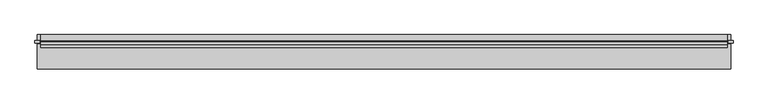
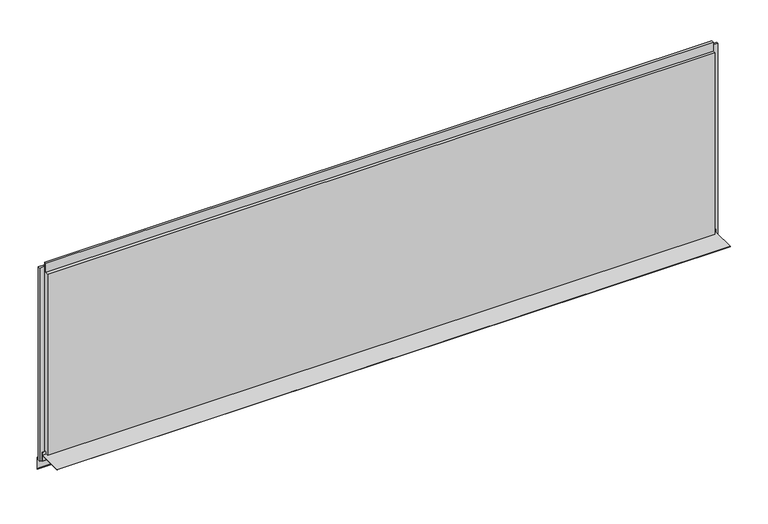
"""IFC4 building model written with IfcOpenShell, lengths in millimetres: plate geometry, Trimo_Qbiss Screen_Normal Panel-HORIZONTAL : HR - B."""

from ifc_helpers import new_model, si_unit, frame, origin, place, context, project, spatial, polyline, outline, extrude, source, transform, mapped, element, save


def plate_445b688b(model_context):
    return source(origin(), model_context, "Body", "SweptSolid", [
        extrude(outline(polyline([(66.7, 14.0835797), (67.5, 14.0835797), (67.5, -23.0), (100.0, -25.8433816), (100.0, -76.0), (87.1509533, -63.1509533), (87.7166388, -62.5852679), (99.2, -74.0686292), (99.2, -26.5764465), (66.7, -23.7330649), (66.7, 1.0), (-32.5, 1.0), (-32.5, 1.8), (66.7, 1.8), (66.7, 14.0835797)])), frame((-1332.5, 0.0, 0.0), z_axis=(1.0, 0.0, 0.0), x_axis=(0.0, 1.0, 0.0)), (0.0, 0.0, 1.0), 2665.0),
        extrude(outline(polyline([(-1323.0, 76.5978162), (-1323.0, 67.8978162), (-1342.0, 67.8978162), (-1342.0, 76.5978162), (-1323.0, 76.5978162)])), frame((0.0, 0.0, -20.0), z_axis=(0.0, 0.0, 1.0), x_axis=(1.0, 0.0, 0.0)), (0.0, 0.0, 1.0), 806.95),
        extrude(outline(polyline([(1323.0, 67.8978162), (1323.0, 76.5978162), (1342.0, 76.5978162), (1342.0, 67.8978162), (1323.0, 67.8978162)])), frame((0.0, 0.0, -20.0), z_axis=(0.0, 0.0, 1.0), x_axis=(1.0, 0.0, 0.0)), (0.0, 0.0, 1.0), 806.95),
        extrude(outline(polyline([(1320.0, 76.0), (1320.0, 71.0), (-1320.0, 71.0), (-1320.0, 76.0), (1320.0, 76.0)])), frame((0.0, 0.0, 765.95), z_axis=(0.0, 0.0, 1.0), x_axis=(1.0, 0.0, 0.0)), (0.0, 0.0, 1.0), 21.0),
        extrude(outline(polyline([(71.0, 764.95), (100.0, 764.95), (100.0, 0.0), (72.0, 0.0), (72.0, 15.5), (62.0, 15.5), (62.0, 7.0), (50.0, 7.0), (50.0, 764.95), (63.0, 764.95), (63.0, 802.45), (71.0, 802.45), (71.0, 764.95)])), frame((-1320.0, 0.0, 0.0), z_axis=(1.0, 0.0, 0.0), x_axis=(0.0, 1.0, 0.0)), (0.0, 0.0, 1.0), 2640.0),
    ])


if __name__ == "__main__":
    model = new_model("IFC4")
    model_context = context("Model", 3, world=origin())
    ifc_project = project(units=[si_unit("LENGTHUNIT", "METRE", prefix="MILLI")], contexts=[model_context])
    site = spatial("IfcSite", under=ifc_project)
    building = spatial("IfcBuilding", under=site)
    placement = place(None, origin())
    plate_shape = plate_445b688b(model_context)
    element("IfcPlate", 1, ObjectType="Trimo_Qbiss Screen_Normal Panel-HORIZONTAL : HR - B", at=placement, inside=building, context=model_context, shape_type="MappedRepresentation", body=[
        mapped(plate_shape, transform((0.0, 0.0, 0.0), x_axis=(1.0, 0.0, 0.0), y_axis=(0.0, 1.0, 0.0), z_axis=(0.0, 0.0, 1.0))),
    ])
    save(model, "model.ifc")
